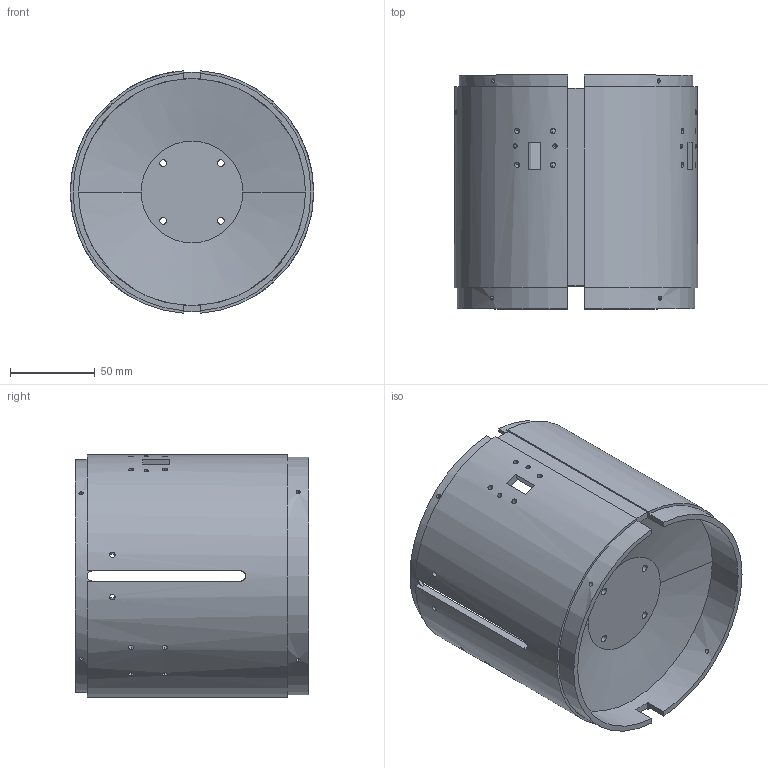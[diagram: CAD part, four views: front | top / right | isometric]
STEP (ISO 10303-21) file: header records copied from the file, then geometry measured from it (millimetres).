
FILE_DESCRIPTION (( 'STEP AP203' ), '1' );
FILE_NAME ('新壳体.STEP', '2026-08-09T06:51:14', ( '微软用户' ), ( '微软中国' ), 'SwSTEP 2.0', 'SolidWorks 2024', '' );
FILE_SCHEMA (( 'CONFIG_CONTROL_DESIGN' ));
Length unit declared in the file: millimetre
Products named in the file (1): 新壳体
Bounding box: 143.6 x 138 x 143.25 mm (x, y, z)
Volume: 372061.8 mm3; surface area: 148312.9 mm2
Topology: 1 solids, 1 shells, 139 faces, 412 edges, 268 vertices
Faces by surface type: cylinder 97, plane 34, cone 8
Entity records: 7358 total; most frequent: CARTESIAN_POINT 3651, ORIENTED_EDGE 812, DIRECTION 617, EDGE_CURVE 406, VERTEX_POINT 268, EDGE_LOOP 218, AXIS2_PLACEMENT_3D 214, LINE 189
